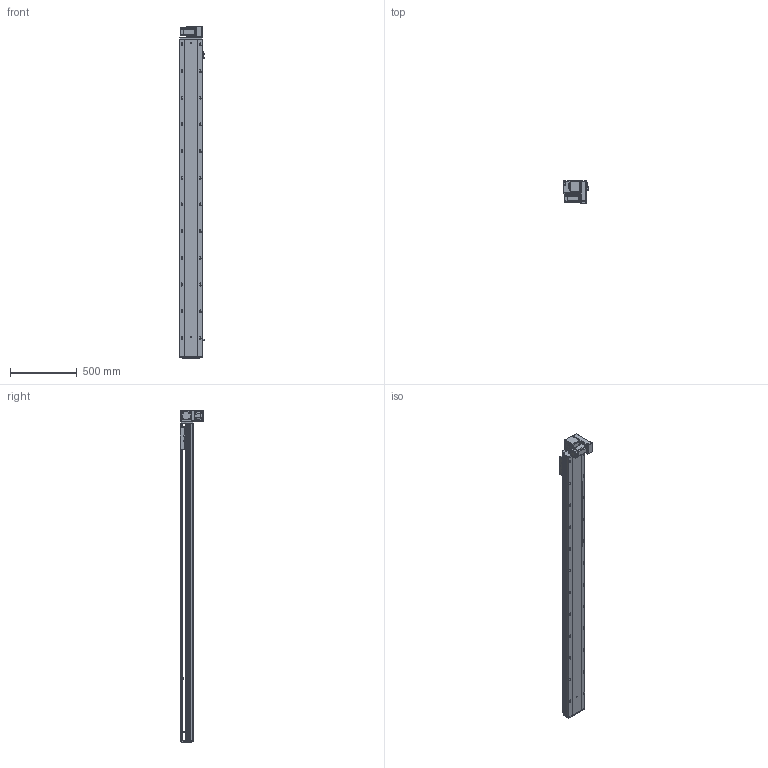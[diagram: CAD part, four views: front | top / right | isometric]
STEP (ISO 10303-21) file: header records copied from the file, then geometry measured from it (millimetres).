
FILE_DESCRIPTION (( 'STEP AP203' ), '1' );
FILE_NAME ('RY170-T-300-DR-P400W.SLDASM_2100.step', '2021-03-01T08:25:04', ( '盈信电脑' ), ( '东莞市道滘镇水果街19号' ), 'SwSTEP 2.0', 'SolidWorks 2012', '' );
FILE_SCHEMA (( 'CONFIG_CONTROL_DESIGN' ));
Products named in the file (19): RY170-T-300肮祭謫倰第菁釱-DR_2100; RY170-T-300-DR-P400W.SLDASM_2100; 滅袉蝶18-10; 15; RY170-T-呴雄粣揤踡啣; RY170-T蹟翐M4; RY170-T肮祭謫裔啣; RY170-T肮祭湍揤踡輸2; RY170-T肮祭湍揤踡輸1; RY120-T主同步轮轴承压盖; RY170肮祭謫萇儂欶; RY170外置感应片(200共用）; RY170翋肮祭謫釱; RY170肮祭謫ヶ裔啣; RY170同步轮电机安装板(400W); RY170綴裔啣; RY170-T-300肮祭謫倰第裔啣-DR_2100; RY170肮祭湍臏賑輸; 覜茼ん672
Assembly tree (23 placements, depth 2):
  RY170-T-300-DR-P400W.SLDASM_2100
    RY170-T-300肮祭謫倰第菁釱-DR_2100
    RY170肮祭湍臏賑輸
    RY170-T-300肮祭謫倰第裔啣-DR_2100
    RY170綴裔啣
    覜茼ん672  x3
    RY170外置感应片(200共用）
    RY170肮祭謫ヶ裔啣
    RY170翋肮祭謫釱
    RY170同步轮电机安装板(400W)
    RY170肮祭謫萇儂欶
    RY170-T肮祭湍揤踡輸1  x2
    RY170-T肮祭湍揤踡輸2  x2
    RY120-T主同步轮轴承压盖
    RY170-T肮祭謫裔啣
    RY170-T蹟翐M4
    滅袉蝶18-10  x2
    RY170-T-呴雄粣揤踡啣
    15
Bounding box: 183.7 x 178 x 2488 mm (x, y, z)
Volume: 11504777.5 mm3; surface area: 3968194.2 mm2
Topology: 23 solids, 23 shells, 3038 faces, 8518 edges, 5427 vertices
Faces by surface type: cylinder 1422, plane 1274, cone 312, bspline 30
Entity records: 92629 total; most frequent: CARTESIAN_POINT 21464, ORIENTED_EDGE 14592, DIRECTION 14226, EDGE_CURVE 7296, AXIS2_PLACEMENT_3D 5059, VERTEX_POINT 4783, VECTOR 4108, LINE 4108
